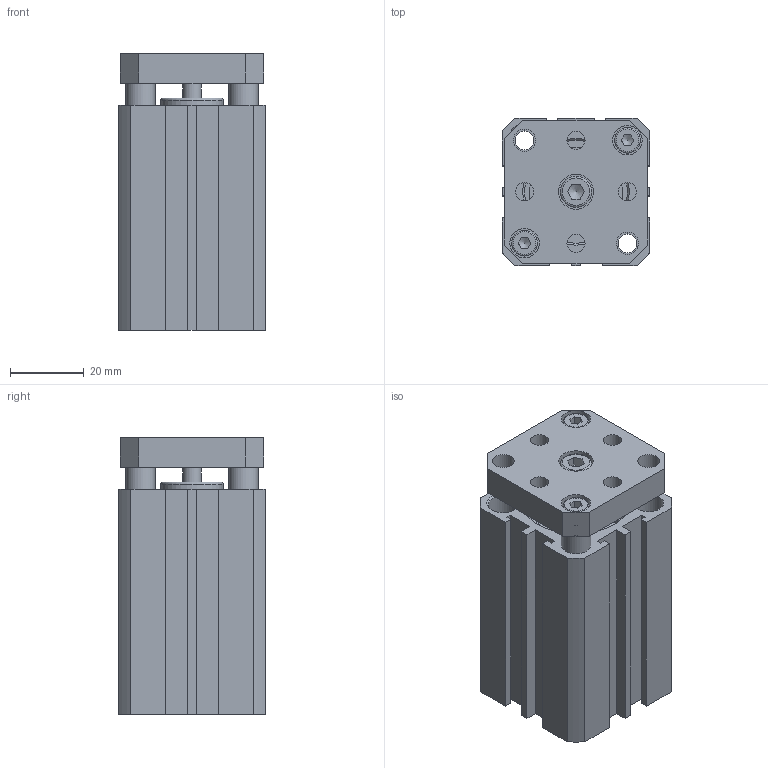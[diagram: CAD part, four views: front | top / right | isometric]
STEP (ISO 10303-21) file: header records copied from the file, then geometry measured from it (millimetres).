
FILE_DESCRIPTION((''),'2;1');
FILE_NAME('I:\3D電子目錄\氣缸\JTD\JTD\JTD25\JTD25x40.stp','2007-08-09T20:07:32',('Administrator'),(''),'Autodesk Inventor 11','Autodesk Inventor 11','');
FILE_SCHEMA(('AUTOMOTIVE_DESIGN { 1 0 10303 214 1 1 1 1 }'));
Length unit declared in the file: millimetre
Products named in the file (5): JTD25; R 形環 28; ISO 4762 M5 x 10; ISO 4762 M4 x 10
Assembly tree (6 placements, depth 2):
  JTD25
    JTD25
    R 形環 28  x2
    ISO 4762 M5 x 10
    ISO 4762 M4 x 10  x2
Bounding box: 40 x 40 x 75.2 mm (x, y, z)
Volume: 88371.6 mm3; surface area: 30339 mm2
Topology: 6 solids, 6 shells, 199 faces, 461 edges, 302 vertices
Faces by surface type: plane 111, cylinder 52, bspline 19, cone 12, torus 5
Full cylindrical faces by diameter (mm): 1.5 x2, 1.9 x4, 4 x2, 5 x1, 5.1 x2, 6 x2, 6.039 x2, 6.5 x2, 7 x2, 8 x6, 8.5 x1, 17 x2, 28 x4, 29.4 x2
Entity records: 5011 total; most frequent: CARTESIAN_POINT 1111, DIRECTION 778, ORIENTED_EDGE 676, EDGE_CURVE 338, AXIS2_PLACEMENT_3D 287, EDGE_LOOP 286, VERTEX_POINT 258, VECTOR 204
